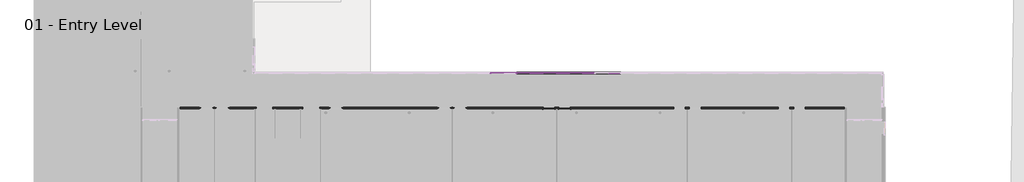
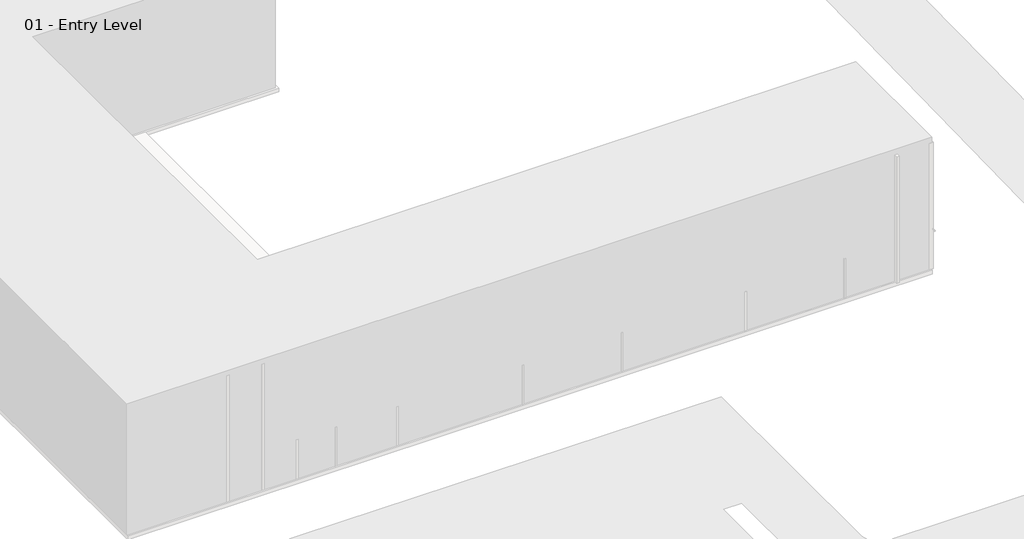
# One storey, part 19 of 34: 72 members, 36 plates, 2 doors, 1 wall.
"""IFC4 building model written with IfcOpenShell, lengths in millimetres."""

from ifc_helpers import new_model, si_unit, origin, place, context, project, spatial, faceted_brep, transform, mapped, element, save
from components import door_a1797ceb, door_a3eb833a, member_2b49869a, member_391b434c, member_9e90ae50, system_panel_glazed_1b9d6098, system_panel_glazed_70da479d

model = new_model("IFC4")

# Units and contexts
model_context = context("Model", 3, world=origin())
ifc_project = project(units=[si_unit("LENGTHUNIT", "METRE", prefix="MILLI")], contexts=[model_context])

# Site, building, storey
site = spatial("IfcSite", under=ifc_project)
building = spatial("IfcBuilding", under=site)
storey = spatial("IfcBuildingStorey", under=building, Name="01 - Entry Level", Elevation=0.0)

# Doors
placement = place(None, origin())
door_shape = door_a1797ceb(model_context)
element("IfcDoor", 1, ObjectType="Single-Flush : 36\" x 84\"", at=placement, inside=storey, context=model_context, shape_type="MappedRepresentation", body=[
    mapped(door_shape, transform((41364.8207476, 8270.8, 0.0), x_axis=(-1.0, 0.0, 0.0), y_axis=(0.0, -1.0, 0.0), z_axis=(0.0, 0.0, 1.0))),
])
door_2_shape = door_a3eb833a(model_context)
element("IfcDoor", 2, ObjectType="Single-Flush : 36\" x 84\"", at=placement, inside=storey, context=model_context, shape_type="MappedRepresentation", body=[
    mapped(door_2_shape, transform((40145.6207476, 8270.8, 0.0), x_axis=(1.0, 0.0, 0.0), y_axis=(0.0, 1.0, 0.0), z_axis=(0.0, 0.0, 1.0))),
])

# Members
member_shape = member_2b49869a(model_context)
element("IfcMember", 3, ObjectType="Rectangular Mullion : 2.5\" x 5\" rectangular", at=placement, inside=storey, context=model_context, shape_type="MappedRepresentation", body=[
    mapped(member_shape, transform((41720.4207476, 11001.3, 9753.6), x_axis=(-1.0, 0.0, 0.0), y_axis=(0.0, 1.0, 0.0), z_axis=(0.0, 0.0, -1.0))),
])
element("IfcMember", 4, ObjectType="Rectangular Mullion : 2.5\" x 5\" rectangular", at=placement, inside=storey, context=model_context, shape_type="MappedRepresentation", body=[
    mapped(member_shape, transform((39688.4207476, 11001.3, 9753.6), x_axis=(-1.0, 0.0, 0.0), y_axis=(0.0, 1.0, 0.0), z_axis=(0.0, 0.0, -1.0))),
])
element("IfcMember", 5, ObjectType="Rectangular Mullion : 2.5\" x 5\" rectangular", at=placement, inside=storey, context=model_context, shape_type="MappedRepresentation", body=[
    mapped(member_shape, transform((37656.4207476, 11001.3, 9753.6), x_axis=(-1.0, 0.0, 0.0), y_axis=(0.0, 1.0, 0.0), z_axis=(0.0, 0.0, -1.0))),
])
element("IfcMember", 6, ObjectType="Rectangular Mullion : 2.5\" x 5\" rectangular", at=placement, inside=storey, context=model_context, shape_type="MappedRepresentation", body=[
    mapped(member_shape, transform((35624.4207476, 11001.3, 9753.6), x_axis=(-1.0, 0.0, 0.0), y_axis=(0.0, 1.0, 0.0), z_axis=(0.0, 0.0, -1.0))),
])
member_2_shape = member_391b434c(model_context)
element("IfcMember", 7, ObjectType="Rectangular Mullion : 2.5\" x 5\" rectangular", at=placement, inside=storey, context=model_context, shape_type="MappedRepresentation", body=[
    mapped(member_2_shape, transform((43784.1707476, 11001.3, 10972.8), x_axis=(0.0, 0.0, 1.0), y_axis=(0.0, 1.0, 0.0), z_axis=(-1.0, 0.0, 0.0))),
])
element("IfcMember", 8, ObjectType="Rectangular Mullion : 2.5\" x 5\" rectangular", at=placement, inside=storey, context=model_context, shape_type="MappedRepresentation", body=[
    mapped(member_2_shape, transform((41752.1707476, 11001.3, 10972.8), x_axis=(0.0, 0.0, 1.0), y_axis=(0.0, 1.0, 0.0), z_axis=(-1.0, 0.0, 0.0))),
])
element("IfcMember", 9, ObjectType="Rectangular Mullion : 2.5\" x 5\" rectangular", at=placement, inside=storey, context=model_context, shape_type="MappedRepresentation", body=[
    mapped(member_2_shape, transform((39720.1707476, 11001.3, 10972.8), x_axis=(0.0, 0.0, 1.0), y_axis=(0.0, 1.0, 0.0), z_axis=(-1.0, 0.0, 0.0))),
])
element("IfcMember", 10, ObjectType="Rectangular Mullion : 2.5\" x 5\" rectangular", at=placement, inside=storey, context=model_context, shape_type="MappedRepresentation", body=[
    mapped(member_2_shape, transform((37688.1707476, 11001.3, 10972.8), x_axis=(0.0, 0.0, 1.0), y_axis=(0.0, 1.0, 0.0), z_axis=(-1.0, 0.0, 0.0))),
])
element("IfcMember", 11, ObjectType="Rectangular Mullion : 2.5\" x 5\" rectangular", at=placement, inside=storey, context=model_context, shape_type="MappedRepresentation", body=[
    mapped(member_2_shape, transform((43720.6707476, 11001.3, 0.0), x_axis=(0.0, 0.0, -1.0), y_axis=(0.0, 1.0, 0.0), z_axis=(1.0, 0.0, 0.0))),
])
element("IfcMember", 12, ObjectType="Rectangular Mullion : 2.5\" x 5\" rectangular", at=placement, inside=storey, context=model_context, shape_type="MappedRepresentation", body=[
    mapped(member_2_shape, transform((41688.6707476, 11001.3, 0.0), x_axis=(0.0, 0.0, -1.0), y_axis=(0.0, 1.0, 0.0), z_axis=(1.0, 0.0, 0.0))),
])
element("IfcMember", 13, ObjectType="Rectangular Mullion : 2.5\" x 5\" rectangular", at=placement, inside=storey, context=model_context, shape_type="MappedRepresentation", body=[
    mapped(member_2_shape, transform((39656.6707476, 11001.3, 0.0), x_axis=(0.0, 0.0, -1.0), y_axis=(0.0, 1.0, 0.0), z_axis=(1.0, 0.0, 0.0))),
])
element("IfcMember", 14, ObjectType="Rectangular Mullion : 2.5\" x 5\" rectangular", at=placement, inside=storey, context=model_context, shape_type="MappedRepresentation", body=[
    mapped(member_2_shape, transform((37624.6707476, 11001.3, 0.0), x_axis=(0.0, 0.0, -1.0), y_axis=(0.0, 1.0, 0.0), z_axis=(1.0, 0.0, 0.0))),
])
member_3_shape = member_9e90ae50(model_context)
element("IfcMember", 15, ObjectType="Rectangular Mullion : 2.5\" x 5\" rectangular", at=placement, inside=storey, context=model_context, shape_type="MappedRepresentation", body=[
    mapped(member_3_shape, transform((43784.1707476, 11001.3, 1219.2), x_axis=(0.0, 0.0, 1.0), y_axis=(0.0, 1.0, 0.0), z_axis=(-1.0, 0.0, 0.0))),
])
element("IfcMember", 16, ObjectType="Rectangular Mullion : 2.5\" x 5\" rectangular", at=placement, inside=storey, context=model_context, shape_type="MappedRepresentation", body=[
    mapped(member_3_shape, transform((41752.1707476, 11001.3, 1219.2), x_axis=(0.0, 0.0, 1.0), y_axis=(0.0, 1.0, 0.0), z_axis=(-1.0, 0.0, 0.0))),
])
element("IfcMember", 17, ObjectType="Rectangular Mullion : 2.5\" x 5\" rectangular", at=placement, inside=storey, context=model_context, shape_type="MappedRepresentation", body=[
    mapped(member_3_shape, transform((39720.1707476, 11001.3, 1219.2), x_axis=(0.0, 0.0, 1.0), y_axis=(0.0, 1.0, 0.0), z_axis=(-1.0, 0.0, 0.0))),
])
element("IfcMember", 18, ObjectType="Rectangular Mullion : 2.5\" x 5\" rectangular", at=placement, inside=storey, context=model_context, shape_type="MappedRepresentation", body=[
    mapped(member_3_shape, transform((37688.1707476, 11001.3, 1219.2), x_axis=(0.0, 0.0, 1.0), y_axis=(0.0, 1.0, 0.0), z_axis=(-1.0, 0.0, 0.0))),
])
element("IfcMember", 19, ObjectType="Rectangular Mullion : 2.5\" x 5\" rectangular", at=placement, inside=storey, context=model_context, shape_type="MappedRepresentation", body=[
    mapped(member_3_shape, transform((43784.1707476, 11001.3, 2438.4), x_axis=(0.0, 0.0, 1.0), y_axis=(0.0, 1.0, 0.0), z_axis=(-1.0, 0.0, 0.0))),
])
element("IfcMember", 20, ObjectType="Rectangular Mullion : 2.5\" x 5\" rectangular", at=placement, inside=storey, context=model_context, shape_type="MappedRepresentation", body=[
    mapped(member_3_shape, transform((41752.1707476, 11001.3, 2438.4), x_axis=(0.0, 0.0, 1.0), y_axis=(0.0, 1.0, 0.0), z_axis=(-1.0, 0.0, 0.0))),
])
element("IfcMember", 21, ObjectType="Rectangular Mullion : 2.5\" x 5\" rectangular", at=placement, inside=storey, context=model_context, shape_type="MappedRepresentation", body=[
    mapped(member_3_shape, transform((39720.1707476, 11001.3, 2438.4), x_axis=(0.0, 0.0, 1.0), y_axis=(0.0, 1.0, 0.0), z_axis=(-1.0, 0.0, 0.0))),
])
element("IfcMember", 22, ObjectType="Rectangular Mullion : 2.5\" x 5\" rectangular", at=placement, inside=storey, context=model_context, shape_type="MappedRepresentation", body=[
    mapped(member_3_shape, transform((37688.1707476, 11001.3, 2438.4), x_axis=(0.0, 0.0, 1.0), y_axis=(0.0, 1.0, 0.0), z_axis=(-1.0, 0.0, 0.0))),
])
element("IfcMember", 23, ObjectType="Rectangular Mullion : 2.5\" x 5\" rectangular", at=placement, inside=storey, context=model_context, shape_type="MappedRepresentation", body=[
    mapped(member_3_shape, transform((43784.1707476, 11001.3, 3657.6), x_axis=(0.0, 0.0, 1.0), y_axis=(0.0, 1.0, 0.0), z_axis=(-1.0, 0.0, 0.0))),
])
element("IfcMember", 24, ObjectType="Rectangular Mullion : 2.5\" x 5\" rectangular", at=placement, inside=storey, context=model_context, shape_type="MappedRepresentation", body=[
    mapped(member_3_shape, transform((41752.1707476, 11001.3, 3657.6), x_axis=(0.0, 0.0, 1.0), y_axis=(0.0, 1.0, 0.0), z_axis=(-1.0, 0.0, 0.0))),
])
element("IfcMember", 25, ObjectType="Rectangular Mullion : 2.5\" x 5\" rectangular", at=placement, inside=storey, context=model_context, shape_type="MappedRepresentation", body=[
    mapped(member_3_shape, transform((39720.1707476, 11001.3, 3657.6), x_axis=(0.0, 0.0, 1.0), y_axis=(0.0, 1.0, 0.0), z_axis=(-1.0, 0.0, 0.0))),
])
element("IfcMember", 26, ObjectType="Rectangular Mullion : 2.5\" x 5\" rectangular", at=placement, inside=storey, context=model_context, shape_type="MappedRepresentation", body=[
    mapped(member_3_shape, transform((37688.1707476, 11001.3, 3657.6), x_axis=(0.0, 0.0, 1.0), y_axis=(0.0, 1.0, 0.0), z_axis=(-1.0, 0.0, 0.0))),
])
element("IfcMember", 27, ObjectType="Rectangular Mullion : 2.5\" x 5\" rectangular", at=placement, inside=storey, context=model_context, shape_type="MappedRepresentation", body=[
    mapped(member_3_shape, transform((43784.1707476, 11001.3, 4876.8), x_axis=(0.0, 0.0, 1.0), y_axis=(0.0, 1.0, 0.0), z_axis=(-1.0, 0.0, 0.0))),
])
element("IfcMember", 28, ObjectType="Rectangular Mullion : 2.5\" x 5\" rectangular", at=placement, inside=storey, context=model_context, shape_type="MappedRepresentation", body=[
    mapped(member_3_shape, transform((41752.1707476, 11001.3, 4876.8), x_axis=(0.0, 0.0, 1.0), y_axis=(0.0, 1.0, 0.0), z_axis=(-1.0, 0.0, 0.0))),
])
element("IfcMember", 29, ObjectType="Rectangular Mullion : 2.5\" x 5\" rectangular", at=placement, inside=storey, context=model_context, shape_type="MappedRepresentation", body=[
    mapped(member_3_shape, transform((39720.1707476, 11001.3, 4876.8), x_axis=(0.0, 0.0, 1.0), y_axis=(0.0, 1.0, 0.0), z_axis=(-1.0, 0.0, 0.0))),
])
element("IfcMember", 30, ObjectType="Rectangular Mullion : 2.5\" x 5\" rectangular", at=placement, inside=storey, context=model_context, shape_type="MappedRepresentation", body=[
    mapped(member_3_shape, transform((37688.1707476, 11001.3, 4876.8), x_axis=(0.0, 0.0, 1.0), y_axis=(0.0, 1.0, 0.0), z_axis=(-1.0, 0.0, 0.0))),
])
element("IfcMember", 31, ObjectType="Rectangular Mullion : 2.5\" x 5\" rectangular", at=placement, inside=storey, context=model_context, shape_type="MappedRepresentation", body=[
    mapped(member_3_shape, transform((43784.1707476, 11001.3, 6096.0), x_axis=(0.0, 0.0, 1.0), y_axis=(0.0, 1.0, 0.0), z_axis=(-1.0, 0.0, 0.0))),
])
element("IfcMember", 32, ObjectType="Rectangular Mullion : 2.5\" x 5\" rectangular", at=placement, inside=storey, context=model_context, shape_type="MappedRepresentation", body=[
    mapped(member_3_shape, transform((41752.1707476, 11001.3, 6096.0), x_axis=(0.0, 0.0, 1.0), y_axis=(0.0, 1.0, 0.0), z_axis=(-1.0, 0.0, 0.0))),
])
element("IfcMember", 33, ObjectType="Rectangular Mullion : 2.5\" x 5\" rectangular", at=placement, inside=storey, context=model_context, shape_type="MappedRepresentation", body=[
    mapped(member_3_shape, transform((39720.1707476, 11001.3, 6096.0), x_axis=(0.0, 0.0, 1.0), y_axis=(0.0, 1.0, 0.0), z_axis=(-1.0, 0.0, 0.0))),
])
element("IfcMember", 34, ObjectType="Rectangular Mullion : 2.5\" x 5\" rectangular", at=placement, inside=storey, context=model_context, shape_type="MappedRepresentation", body=[
    mapped(member_3_shape, transform((37688.1707476, 11001.3, 6096.0), x_axis=(0.0, 0.0, 1.0), y_axis=(0.0, 1.0, 0.0), z_axis=(-1.0, 0.0, 0.0))),
])
element("IfcMember", 35, ObjectType="Rectangular Mullion : 2.5\" x 5\" rectangular", at=placement, inside=storey, context=model_context, shape_type="MappedRepresentation", body=[
    mapped(member_3_shape, transform((43784.1707476, 11001.3, 7315.2), x_axis=(0.0, 0.0, 1.0), y_axis=(0.0, 1.0, 0.0), z_axis=(-1.0, 0.0, 0.0))),
])
element("IfcMember", 36, ObjectType="Rectangular Mullion : 2.5\" x 5\" rectangular", at=placement, inside=storey, context=model_context, shape_type="MappedRepresentation", body=[
    mapped(member_3_shape, transform((41752.1707476, 11001.3, 7315.2), x_axis=(0.0, 0.0, 1.0), y_axis=(0.0, 1.0, 0.0), z_axis=(-1.0, 0.0, 0.0))),
])
element("IfcMember", 37, ObjectType="Rectangular Mullion : 2.5\" x 5\" rectangular", at=placement, inside=storey, context=model_context, shape_type="MappedRepresentation", body=[
    mapped(member_3_shape, transform((39720.1707476, 11001.3, 7315.2), x_axis=(0.0, 0.0, 1.0), y_axis=(0.0, 1.0, 0.0), z_axis=(-1.0, 0.0, 0.0))),
])
element("IfcMember", 38, ObjectType="Rectangular Mullion : 2.5\" x 5\" rectangular", at=placement, inside=storey, context=model_context, shape_type="MappedRepresentation", body=[
    mapped(member_3_shape, transform((37688.1707476, 11001.3, 7315.2), x_axis=(0.0, 0.0, 1.0), y_axis=(0.0, 1.0, 0.0), z_axis=(-1.0, 0.0, 0.0))),
])
element("IfcMember", 39, ObjectType="Rectangular Mullion : 2.5\" x 5\" rectangular", at=placement, inside=storey, context=model_context, shape_type="MappedRepresentation", body=[
    mapped(member_3_shape, transform((43784.1707476, 11001.3, 8534.4), x_axis=(0.0, 0.0, 1.0), y_axis=(0.0, 1.0, 0.0), z_axis=(-1.0, 0.0, 0.0))),
])
element("IfcMember", 40, ObjectType="Rectangular Mullion : 2.5\" x 5\" rectangular", at=placement, inside=storey, context=model_context, shape_type="MappedRepresentation", body=[
    mapped(member_3_shape, transform((41752.1707476, 11001.3, 8534.4), x_axis=(0.0, 0.0, 1.0), y_axis=(0.0, 1.0, 0.0), z_axis=(-1.0, 0.0, 0.0))),
])
element("IfcMember", 41, ObjectType="Rectangular Mullion : 2.5\" x 5\" rectangular", at=placement, inside=storey, context=model_context, shape_type="MappedRepresentation", body=[
    mapped(member_3_shape, transform((39720.1707476, 11001.3, 8534.4), x_axis=(0.0, 0.0, 1.0), y_axis=(0.0, 1.0, 0.0), z_axis=(-1.0, 0.0, 0.0))),
])
element("IfcMember", 42, ObjectType="Rectangular Mullion : 2.5\" x 5\" rectangular", at=placement, inside=storey, context=model_context, shape_type="MappedRepresentation", body=[
    mapped(member_3_shape, transform((37688.1707476, 11001.3, 8534.4), x_axis=(0.0, 0.0, 1.0), y_axis=(0.0, 1.0, 0.0), z_axis=(-1.0, 0.0, 0.0))),
])
element("IfcMember", 43, ObjectType="Rectangular Mullion : 2.5\" x 5\" rectangular", at=placement, inside=storey, context=model_context, shape_type="MappedRepresentation", body=[
    mapped(member_3_shape, transform((43784.1707476, 11001.3, 9753.6), x_axis=(0.0, 0.0, 1.0), y_axis=(0.0, 1.0, 0.0), z_axis=(-1.0, 0.0, 0.0))),
])
element("IfcMember", 44, ObjectType="Rectangular Mullion : 2.5\" x 5\" rectangular", at=placement, inside=storey, context=model_context, shape_type="MappedRepresentation", body=[
    mapped(member_3_shape, transform((41752.1707476, 11001.3, 9753.6), x_axis=(0.0, 0.0, 1.0), y_axis=(0.0, 1.0, 0.0), z_axis=(-1.0, 0.0, 0.0))),
])
element("IfcMember", 45, ObjectType="Rectangular Mullion : 2.5\" x 5\" rectangular", at=placement, inside=storey, context=model_context, shape_type="MappedRepresentation", body=[
    mapped(member_3_shape, transform((39720.1707476, 11001.3, 9753.6), x_axis=(0.0, 0.0, 1.0), y_axis=(0.0, 1.0, 0.0), z_axis=(-1.0, 0.0, 0.0))),
])
element("IfcMember", 46, ObjectType="Rectangular Mullion : 2.5\" x 5\" rectangular", at=placement, inside=storey, context=model_context, shape_type="MappedRepresentation", body=[
    mapped(member_3_shape, transform((37688.1707476, 11001.3, 9753.6), x_axis=(0.0, 0.0, 1.0), y_axis=(0.0, 1.0, 0.0), z_axis=(-1.0, 0.0, 0.0))),
])
element("IfcMember", 47, ObjectType="Rectangular Mullion : 2.5\" x 5\" rectangular", at=placement, inside=storey, context=model_context, shape_type="MappedRepresentation", body=[
    mapped(member_shape, transform((43752.4207476, 11001.3, 0.0), x_axis=(-1.0, 0.0, 0.0), y_axis=(0.0, 1.0, 0.0), z_axis=(0.0, 0.0, -1.0))),
])
element("IfcMember", 48, ObjectType="Rectangular Mullion : 2.5\" x 5\" rectangular", at=placement, inside=storey, context=model_context, shape_type="MappedRepresentation", body=[
    mapped(member_shape, transform((41720.4207476, 11001.3, 0.0), x_axis=(-1.0, 0.0, 0.0), y_axis=(0.0, 1.0, 0.0), z_axis=(0.0, 0.0, -1.0))),
])
element("IfcMember", 49, ObjectType="Rectangular Mullion : 2.5\" x 5\" rectangular", at=placement, inside=storey, context=model_context, shape_type="MappedRepresentation", body=[
    mapped(member_shape, transform((39688.4207476, 11001.3, 0.0), x_axis=(-1.0, 0.0, 0.0), y_axis=(0.0, 1.0, 0.0), z_axis=(0.0, 0.0, -1.0))),
])
element("IfcMember", 50, ObjectType="Rectangular Mullion : 2.5\" x 5\" rectangular", at=placement, inside=storey, context=model_context, shape_type="MappedRepresentation", body=[
    mapped(member_shape, transform((37656.4207476, 11001.3, 0.0), x_axis=(-1.0, 0.0, 0.0), y_axis=(0.0, 1.0, 0.0), z_axis=(0.0, 0.0, -1.0))),
])
element("IfcMember", 51, ObjectType="Rectangular Mullion : 2.5\" x 5\" rectangular", at=placement, inside=storey, context=model_context, shape_type="MappedRepresentation", body=[
    mapped(member_shape, transform((43752.4207476, 11001.3, 1219.2), x_axis=(-1.0, 0.0, 0.0), y_axis=(0.0, 1.0, 0.0), z_axis=(0.0, 0.0, -1.0))),
])
element("IfcMember", 52, ObjectType="Rectangular Mullion : 2.5\" x 5\" rectangular", at=placement, inside=storey, context=model_context, shape_type="MappedRepresentation", body=[
    mapped(member_shape, transform((41720.4207476, 11001.3, 1219.2), x_axis=(-1.0, 0.0, 0.0), y_axis=(0.0, 1.0, 0.0), z_axis=(0.0, 0.0, -1.0))),
])
element("IfcMember", 53, ObjectType="Rectangular Mullion : 2.5\" x 5\" rectangular", at=placement, inside=storey, context=model_context, shape_type="MappedRepresentation", body=[
    mapped(member_shape, transform((39688.4207476, 11001.3, 1219.2), x_axis=(-1.0, 0.0, 0.0), y_axis=(0.0, 1.0, 0.0), z_axis=(0.0, 0.0, -1.0))),
])
element("IfcMember", 54, ObjectType="Rectangular Mullion : 2.5\" x 5\" rectangular", at=placement, inside=storey, context=model_context, shape_type="MappedRepresentation", body=[
    mapped(member_shape, transform((37656.4207476, 11001.3, 1219.2), x_axis=(-1.0, 0.0, 0.0), y_axis=(0.0, 1.0, 0.0), z_axis=(0.0, 0.0, -1.0))),
])
element("IfcMember", 55, ObjectType="Rectangular Mullion : 2.5\" x 5\" rectangular", at=placement, inside=storey, context=model_context, shape_type="MappedRepresentation", body=[
    mapped(member_shape, transform((43752.4207476, 11001.3, 2438.4), x_axis=(-1.0, 0.0, 0.0), y_axis=(0.0, 1.0, 0.0), z_axis=(0.0, 0.0, -1.0))),
])
element("IfcMember", 56, ObjectType="Rectangular Mullion : 2.5\" x 5\" rectangular", at=placement, inside=storey, context=model_context, shape_type="MappedRepresentation", body=[
    mapped(member_shape, transform((41720.4207476, 11001.3, 2438.4), x_axis=(-1.0, 0.0, 0.0), y_axis=(0.0, 1.0, 0.0), z_axis=(0.0, 0.0, -1.0))),
])
element("IfcMember", 57, ObjectType="Rectangular Mullion : 2.5\" x 5\" rectangular", at=placement, inside=storey, context=model_context, shape_type="MappedRepresentation", body=[
    mapped(member_shape, transform((39688.4207476, 11001.3, 2438.4), x_axis=(-1.0, 0.0, 0.0), y_axis=(0.0, 1.0, 0.0), z_axis=(0.0, 0.0, -1.0))),
])
element("IfcMember", 58, ObjectType="Rectangular Mullion : 2.5\" x 5\" rectangular", at=placement, inside=storey, context=model_context, shape_type="MappedRepresentation", body=[
    mapped(member_shape, transform((37656.4207476, 11001.3, 2438.4), x_axis=(-1.0, 0.0, 0.0), y_axis=(0.0, 1.0, 0.0), z_axis=(0.0, 0.0, -1.0))),
])
element("IfcMember", 59, ObjectType="Rectangular Mullion : 2.5\" x 5\" rectangular", at=placement, inside=storey, context=model_context, shape_type="MappedRepresentation", body=[
    mapped(member_shape, transform((43752.4207476, 11001.3, 3657.6), x_axis=(-1.0, 0.0, 0.0), y_axis=(0.0, 1.0, 0.0), z_axis=(0.0, 0.0, -1.0))),
])
element("IfcMember", 60, ObjectType="Rectangular Mullion : 2.5\" x 5\" rectangular", at=placement, inside=storey, context=model_context, shape_type="MappedRepresentation", body=[
    mapped(member_shape, transform((41720.4207476, 11001.3, 3657.6), x_axis=(-1.0, 0.0, 0.0), y_axis=(0.0, 1.0, 0.0), z_axis=(0.0, 0.0, -1.0))),
])
element("IfcMember", 61, ObjectType="Rectangular Mullion : 2.5\" x 5\" rectangular", at=placement, inside=storey, context=model_context, shape_type="MappedRepresentation", body=[
    mapped(member_shape, transform((39688.4207476, 11001.3, 3657.6), x_axis=(-1.0, 0.0, 0.0), y_axis=(0.0, 1.0, 0.0), z_axis=(0.0, 0.0, -1.0))),
])
element("IfcMember", 62, ObjectType="Rectangular Mullion : 2.5\" x 5\" rectangular", at=placement, inside=storey, context=model_context, shape_type="MappedRepresentation", body=[
    mapped(member_shape, transform((37656.4207476, 11001.3, 3657.6), x_axis=(-1.0, 0.0, 0.0), y_axis=(0.0, 1.0, 0.0), z_axis=(0.0, 0.0, -1.0))),
])
element("IfcMember", 63, ObjectType="Rectangular Mullion : 2.5\" x 5\" rectangular", at=placement, inside=storey, context=model_context, shape_type="MappedRepresentation", body=[
    mapped(member_shape, transform((41720.4207476, 11001.3, 4876.8), x_axis=(-1.0, 0.0, 0.0), y_axis=(0.0, 1.0, 0.0), z_axis=(0.0, 0.0, -1.0))),
])
element("IfcMember", 64, ObjectType="Rectangular Mullion : 2.5\" x 5\" rectangular", at=placement, inside=storey, context=model_context, shape_type="MappedRepresentation", body=[
    mapped(member_shape, transform((39688.4207476, 11001.3, 4876.8), x_axis=(-1.0, 0.0, 0.0), y_axis=(0.0, 1.0, 0.0), z_axis=(0.0, 0.0, -1.0))),
])
element("IfcMember", 65, ObjectType="Rectangular Mullion : 2.5\" x 5\" rectangular", at=placement, inside=storey, context=model_context, shape_type="MappedRepresentation", body=[
    mapped(member_shape, transform((37656.4207476, 11001.3, 4876.8), x_axis=(-1.0, 0.0, 0.0), y_axis=(0.0, 1.0, 0.0), z_axis=(0.0, 0.0, -1.0))),
])
element("IfcMember", 66, ObjectType="Rectangular Mullion : 2.5\" x 5\" rectangular", at=placement, inside=storey, context=model_context, shape_type="MappedRepresentation", body=[
    mapped(member_shape, transform((41720.4207476, 11001.3, 6096.0), x_axis=(-1.0, 0.0, 0.0), y_axis=(0.0, 1.0, 0.0), z_axis=(0.0, 0.0, -1.0))),
])
element("IfcMember", 67, ObjectType="Rectangular Mullion : 2.5\" x 5\" rectangular", at=placement, inside=storey, context=model_context, shape_type="MappedRepresentation", body=[
    mapped(member_shape, transform((39688.4207476, 11001.3, 6096.0), x_axis=(-1.0, 0.0, 0.0), y_axis=(0.0, 1.0, 0.0), z_axis=(0.0, 0.0, -1.0))),
])
element("IfcMember", 68, ObjectType="Rectangular Mullion : 2.5\" x 5\" rectangular", at=placement, inside=storey, context=model_context, shape_type="MappedRepresentation", body=[
    mapped(member_shape, transform((37656.4207476, 11001.3, 6096.0), x_axis=(-1.0, 0.0, 0.0), y_axis=(0.0, 1.0, 0.0), z_axis=(0.0, 0.0, -1.0))),
])
element("IfcMember", 69, ObjectType="Rectangular Mullion : 2.5\" x 5\" rectangular", at=placement, inside=storey, context=model_context, shape_type="MappedRepresentation", body=[
    mapped(member_shape, transform((41720.4207476, 11001.3, 7315.2), x_axis=(-1.0, 0.0, 0.0), y_axis=(0.0, 1.0, 0.0), z_axis=(0.0, 0.0, -1.0))),
])
element("IfcMember", 70, ObjectType="Rectangular Mullion : 2.5\" x 5\" rectangular", at=placement, inside=storey, context=model_context, shape_type="MappedRepresentation", body=[
    mapped(member_shape, transform((39688.4207476, 11001.3, 7315.2), x_axis=(-1.0, 0.0, 0.0), y_axis=(0.0, 1.0, 0.0), z_axis=(0.0, 0.0, -1.0))),
])
element("IfcMember", 71, ObjectType="Rectangular Mullion : 2.5\" x 5\" rectangular", at=placement, inside=storey, context=model_context, shape_type="MappedRepresentation", body=[
    mapped(member_shape, transform((37656.4207476, 11001.3, 7315.2), x_axis=(-1.0, 0.0, 0.0), y_axis=(0.0, 1.0, 0.0), z_axis=(0.0, 0.0, -1.0))),
])
element("IfcMember", 72, ObjectType="Rectangular Mullion : 2.5\" x 5\" rectangular", at=placement, inside=storey, context=model_context, shape_type="MappedRepresentation", body=[
    mapped(member_shape, transform((41720.4207476, 11001.3, 8534.4), x_axis=(-1.0, 0.0, 0.0), y_axis=(0.0, 1.0, 0.0), z_axis=(0.0, 0.0, -1.0))),
])
element("IfcMember", 73, ObjectType="Rectangular Mullion : 2.5\" x 5\" rectangular", at=placement, inside=storey, context=model_context, shape_type="MappedRepresentation", body=[
    mapped(member_shape, transform((39688.4207476, 11001.3, 8534.4), x_axis=(-1.0, 0.0, 0.0), y_axis=(0.0, 1.0, 0.0), z_axis=(0.0, 0.0, -1.0))),
])
element("IfcMember", 74, ObjectType="Rectangular Mullion : 2.5\" x 5\" rectangular", at=placement, inside=storey, context=model_context, shape_type="MappedRepresentation", body=[
    mapped(member_shape, transform((37656.4207476, 11001.3, 8534.4), x_axis=(-1.0, 0.0, 0.0), y_axis=(0.0, 1.0, 0.0), z_axis=(0.0, 0.0, -1.0))),
])

# Plates
system_panel_glazed_shape = system_panel_glazed_1b9d6098(model_context)
element("IfcPlate", 75, ObjectType="System Panel : Glazed", at=placement, inside=storey, context=model_context, shape_type="MappedRepresentation", body=[
    mapped(system_panel_glazed_shape, transform((42736.4207476, 11001.3, 63.5), x_axis=(-1.0, 0.0, 0.0), y_axis=(0.0, -1.0, 0.0), z_axis=(0.0, 0.0, 1.0))),
])
element("IfcPlate", 76, ObjectType="System Panel : Glazed", at=placement, inside=storey, context=model_context, shape_type="MappedRepresentation", body=[
    mapped(system_panel_glazed_shape, transform((40704.4207476, 11001.3, 63.5), x_axis=(-1.0, 0.0, 0.0), y_axis=(0.0, -1.0, 0.0), z_axis=(0.0, 0.0, 1.0))),
])
element("IfcPlate", 77, ObjectType="System Panel : Glazed", at=placement, inside=storey, context=model_context, shape_type="MappedRepresentation", body=[
    mapped(system_panel_glazed_shape, transform((38672.4207476, 11001.3, 63.5), x_axis=(-1.0, 0.0, 0.0), y_axis=(0.0, -1.0, 0.0), z_axis=(0.0, 0.0, 1.0))),
])
element("IfcPlate", 78, ObjectType="System Panel : Glazed", at=placement, inside=storey, context=model_context, shape_type="MappedRepresentation", body=[
    mapped(system_panel_glazed_shape, transform((36640.4207476, 11001.3, 63.5), x_axis=(-1.0, 0.0, 0.0), y_axis=(0.0, -1.0, 0.0), z_axis=(0.0, 0.0, 1.0))),
])
element("IfcPlate", 79, ObjectType="System Panel : Glazed", at=placement, inside=storey, context=model_context, shape_type="MappedRepresentation", body=[
    mapped(system_panel_glazed_shape, transform((42736.4207476, 11001.3, 9785.35), x_axis=(-1.0, 0.0, 0.0), y_axis=(0.0, -1.0, 0.0), z_axis=(0.0, 0.0, 1.0))),
])
element("IfcPlate", 80, ObjectType="System Panel : Glazed", at=placement, inside=storey, context=model_context, shape_type="MappedRepresentation", body=[
    mapped(system_panel_glazed_shape, transform((40704.4207476, 11001.3, 9785.35), x_axis=(-1.0, 0.0, 0.0), y_axis=(0.0, -1.0, 0.0), z_axis=(0.0, 0.0, 1.0))),
])
element("IfcPlate", 81, ObjectType="System Panel : Glazed", at=placement, inside=storey, context=model_context, shape_type="MappedRepresentation", body=[
    mapped(system_panel_glazed_shape, transform((38672.4207476, 11001.3, 9785.35), x_axis=(-1.0, 0.0, 0.0), y_axis=(0.0, -1.0, 0.0), z_axis=(0.0, 0.0, 1.0))),
])
element("IfcPlate", 82, ObjectType="System Panel : Glazed", at=placement, inside=storey, context=model_context, shape_type="MappedRepresentation", body=[
    mapped(system_panel_glazed_shape, transform((36640.4207476, 11001.3, 9785.35), x_axis=(-1.0, 0.0, 0.0), y_axis=(0.0, -1.0, 0.0), z_axis=(0.0, 0.0, 1.0))),
])
system_panel_glazed_2_shape = system_panel_glazed_70da479d(model_context)
element("IfcPlate", 83, ObjectType="System Panel : Glazed", at=placement, inside=storey, context=model_context, shape_type="MappedRepresentation", body=[
    mapped(system_panel_glazed_2_shape, transform((42736.4207476, 11001.3, 1250.95), x_axis=(-1.0, 0.0, 0.0), y_axis=(0.0, -1.0, 0.0), z_axis=(0.0, 0.0, 1.0))),
])
element("IfcPlate", 84, ObjectType="System Panel : Glazed", at=placement, inside=storey, context=model_context, shape_type="MappedRepresentation", body=[
    mapped(system_panel_glazed_2_shape, transform((40704.4207476, 11001.3, 1250.95), x_axis=(-1.0, 0.0, 0.0), y_axis=(0.0, -1.0, 0.0), z_axis=(0.0, 0.0, 1.0))),
])
element("IfcPlate", 85, ObjectType="System Panel : Glazed", at=placement, inside=storey, context=model_context, shape_type="MappedRepresentation", body=[
    mapped(system_panel_glazed_2_shape, transform((38672.4207476, 11001.3, 1250.95), x_axis=(-1.0, 0.0, 0.0), y_axis=(0.0, -1.0, 0.0), z_axis=(0.0, 0.0, 1.0))),
])
element("IfcPlate", 86, ObjectType="System Panel : Glazed", at=placement, inside=storey, context=model_context, shape_type="MappedRepresentation", body=[
    mapped(system_panel_glazed_2_shape, transform((36640.4207476, 11001.3, 1250.95), x_axis=(-1.0, 0.0, 0.0), y_axis=(0.0, -1.0, 0.0), z_axis=(0.0, 0.0, 1.0))),
])
element("IfcPlate", 87, ObjectType="System Panel : Glazed", at=placement, inside=storey, context=model_context, shape_type="MappedRepresentation", body=[
    mapped(system_panel_glazed_2_shape, transform((42736.4207476, 11001.3, 2470.15), x_axis=(-1.0, 0.0, 0.0), y_axis=(0.0, -1.0, 0.0), z_axis=(0.0, 0.0, 1.0))),
])
element("IfcPlate", 88, ObjectType="System Panel : Glazed", at=placement, inside=storey, context=model_context, shape_type="MappedRepresentation", body=[
    mapped(system_panel_glazed_2_shape, transform((40704.4207476, 11001.3, 2470.15), x_axis=(-1.0, 0.0, 0.0), y_axis=(0.0, -1.0, 0.0), z_axis=(0.0, 0.0, 1.0))),
])
element("IfcPlate", 89, ObjectType="System Panel : Glazed", at=placement, inside=storey, context=model_context, shape_type="MappedRepresentation", body=[
    mapped(system_panel_glazed_2_shape, transform((38672.4207476, 11001.3, 2470.15), x_axis=(-1.0, 0.0, 0.0), y_axis=(0.0, -1.0, 0.0), z_axis=(0.0, 0.0, 1.0))),
])
element("IfcPlate", 90, ObjectType="System Panel : Glazed", at=placement, inside=storey, context=model_context, shape_type="MappedRepresentation", body=[
    mapped(system_panel_glazed_2_shape, transform((36640.4207476, 11001.3, 2470.15), x_axis=(-1.0, 0.0, 0.0), y_axis=(0.0, -1.0, 0.0), z_axis=(0.0, 0.0, 1.0))),
])
element("IfcPlate", 91, ObjectType="System Panel : Glazed", at=placement, inside=storey, context=model_context, shape_type="MappedRepresentation", body=[
    mapped(system_panel_glazed_2_shape, transform((42736.4207476, 11001.3, 3689.35), x_axis=(-1.0, 0.0, 0.0), y_axis=(0.0, -1.0, 0.0), z_axis=(0.0, 0.0, 1.0))),
])
element("IfcPlate", 92, ObjectType="System Panel : Glazed", at=placement, inside=storey, context=model_context, shape_type="MappedRepresentation", body=[
    mapped(system_panel_glazed_2_shape, transform((40704.4207476, 11001.3, 3689.35), x_axis=(-1.0, 0.0, 0.0), y_axis=(0.0, -1.0, 0.0), z_axis=(0.0, 0.0, 1.0))),
])
element("IfcPlate", 93, ObjectType="System Panel : Glazed", at=placement, inside=storey, context=model_context, shape_type="MappedRepresentation", body=[
    mapped(system_panel_glazed_2_shape, transform((38672.4207476, 11001.3, 3689.35), x_axis=(-1.0, 0.0, 0.0), y_axis=(0.0, -1.0, 0.0), z_axis=(0.0, 0.0, 1.0))),
])
element("IfcPlate", 94, ObjectType="System Panel : Glazed", at=placement, inside=storey, context=model_context, shape_type="MappedRepresentation", body=[
    mapped(system_panel_glazed_2_shape, transform((36640.4207476, 11001.3, 3689.35), x_axis=(-1.0, 0.0, 0.0), y_axis=(0.0, -1.0, 0.0), z_axis=(0.0, 0.0, 1.0))),
])
element("IfcPlate", 95, ObjectType="System Panel : Glazed", at=placement, inside=storey, context=model_context, shape_type="MappedRepresentation", body=[
    mapped(system_panel_glazed_2_shape, transform((42736.4207476, 11001.3, 4908.55), x_axis=(-1.0, 0.0, 0.0), y_axis=(0.0, -1.0, 0.0), z_axis=(0.0, 0.0, 1.0))),
])
element("IfcPlate", 96, ObjectType="System Panel : Glazed", at=placement, inside=storey, context=model_context, shape_type="MappedRepresentation", body=[
    mapped(system_panel_glazed_2_shape, transform((40704.4207476, 11001.3, 4908.55), x_axis=(-1.0, 0.0, 0.0), y_axis=(0.0, -1.0, 0.0), z_axis=(0.0, 0.0, 1.0))),
])
element("IfcPlate", 97, ObjectType="System Panel : Glazed", at=placement, inside=storey, context=model_context, shape_type="MappedRepresentation", body=[
    mapped(system_panel_glazed_2_shape, transform((38672.4207476, 11001.3, 4908.55), x_axis=(-1.0, 0.0, 0.0), y_axis=(0.0, -1.0, 0.0), z_axis=(0.0, 0.0, 1.0))),
])
element("IfcPlate", 98, ObjectType="System Panel : Glazed", at=placement, inside=storey, context=model_context, shape_type="MappedRepresentation", body=[
    mapped(system_panel_glazed_2_shape, transform((36640.4207476, 11001.3, 4908.55), x_axis=(-1.0, 0.0, 0.0), y_axis=(0.0, -1.0, 0.0), z_axis=(0.0, 0.0, 1.0))),
])
element("IfcPlate", 99, ObjectType="System Panel : Glazed", at=placement, inside=storey, context=model_context, shape_type="MappedRepresentation", body=[
    mapped(system_panel_glazed_2_shape, transform((42736.4207476, 11001.3, 6127.75), x_axis=(-1.0, 0.0, 0.0), y_axis=(0.0, -1.0, 0.0), z_axis=(0.0, 0.0, 1.0))),
])
element("IfcPlate", 100, ObjectType="System Panel : Glazed", at=placement, inside=storey, context=model_context, shape_type="MappedRepresentation", body=[
    mapped(system_panel_glazed_2_shape, transform((40704.4207476, 11001.3, 6127.75), x_axis=(-1.0, 0.0, 0.0), y_axis=(0.0, -1.0, 0.0), z_axis=(0.0, 0.0, 1.0))),
])
element("IfcPlate", 101, ObjectType="System Panel : Glazed", at=placement, inside=storey, context=model_context, shape_type="MappedRepresentation", body=[
    mapped(system_panel_glazed_2_shape, transform((38672.4207476, 11001.3, 6127.75), x_axis=(-1.0, 0.0, 0.0), y_axis=(0.0, -1.0, 0.0), z_axis=(0.0, 0.0, 1.0))),
])
element("IfcPlate", 102, ObjectType="System Panel : Glazed", at=placement, inside=storey, context=model_context, shape_type="MappedRepresentation", body=[
    mapped(system_panel_glazed_2_shape, transform((36640.4207476, 11001.3, 6127.75), x_axis=(-1.0, 0.0, 0.0), y_axis=(0.0, -1.0, 0.0), z_axis=(0.0, 0.0, 1.0))),
])
element("IfcPlate", 103, ObjectType="System Panel : Glazed", at=placement, inside=storey, context=model_context, shape_type="MappedRepresentation", body=[
    mapped(system_panel_glazed_2_shape, transform((42736.4207476, 11001.3, 7346.95), x_axis=(-1.0, 0.0, 0.0), y_axis=(0.0, -1.0, 0.0), z_axis=(0.0, 0.0, 1.0))),
])
element("IfcPlate", 104, ObjectType="System Panel : Glazed", at=placement, inside=storey, context=model_context, shape_type="MappedRepresentation", body=[
    mapped(system_panel_glazed_2_shape, transform((40704.4207476, 11001.3, 7346.95), x_axis=(-1.0, 0.0, 0.0), y_axis=(0.0, -1.0, 0.0), z_axis=(0.0, 0.0, 1.0))),
])
element("IfcPlate", 105, ObjectType="System Panel : Glazed", at=placement, inside=storey, context=model_context, shape_type="MappedRepresentation", body=[
    mapped(system_panel_glazed_2_shape, transform((38672.4207476, 11001.3, 7346.95), x_axis=(-1.0, 0.0, 0.0), y_axis=(0.0, -1.0, 0.0), z_axis=(0.0, 0.0, 1.0))),
])
element("IfcPlate", 106, ObjectType="System Panel : Glazed", at=placement, inside=storey, context=model_context, shape_type="MappedRepresentation", body=[
    mapped(system_panel_glazed_2_shape, transform((36640.4207476, 11001.3, 7346.95), x_axis=(-1.0, 0.0, 0.0), y_axis=(0.0, -1.0, 0.0), z_axis=(0.0, 0.0, 1.0))),
])
element("IfcPlate", 107, ObjectType="System Panel : Glazed", at=placement, inside=storey, context=model_context, shape_type="MappedRepresentation", body=[
    mapped(system_panel_glazed_2_shape, transform((42736.4207476, 11001.3, 8566.15), x_axis=(-1.0, 0.0, 0.0), y_axis=(0.0, -1.0, 0.0), z_axis=(0.0, 0.0, 1.0))),
])
element("IfcPlate", 108, ObjectType="System Panel : Glazed", at=placement, inside=storey, context=model_context, shape_type="MappedRepresentation", body=[
    mapped(system_panel_glazed_2_shape, transform((40704.4207476, 11001.3, 8566.15), x_axis=(-1.0, 0.0, 0.0), y_axis=(0.0, -1.0, 0.0), z_axis=(0.0, 0.0, 1.0))),
])
element("IfcPlate", 109, ObjectType="System Panel : Glazed", at=placement, inside=storey, context=model_context, shape_type="MappedRepresentation", body=[
    mapped(system_panel_glazed_2_shape, transform((38672.4207476, 11001.3, 8566.15), x_axis=(-1.0, 0.0, 0.0), y_axis=(0.0, -1.0, 0.0), z_axis=(0.0, 0.0, 1.0))),
])
element("IfcPlate", 110, ObjectType="System Panel : Glazed", at=placement, inside=storey, context=model_context, shape_type="MappedRepresentation", body=[
    mapped(system_panel_glazed_2_shape, transform((36640.4207476, 11001.3, 8566.15), x_axis=(-1.0, 0.0, 0.0), y_axis=(0.0, -1.0, 0.0), z_axis=(0.0, 0.0, 1.0))),
])

# Wall
element("IfcWall", 111, ObjectType="Generic - 5\"", at=placement, inside=storey, context=model_context, shape_type="Brep", body=[
    faceted_brep([(58890.8207476, 8207.3, 0.0), (58979.7207476, 8207.3, 0.0), (59106.7207476, 8207.3, 0.0), (59195.6207476, 8207.3, 0.0), (59195.6207476, 8207.3, 2133.6), (60110.0207476, 8207.3, 2133.6), (60110.0207476, 8207.3, 0.0), (63145.3207476, 8207.3, 0.0), (63145.3207476, 8207.3, 3403.6), (59106.7207476, 8207.3, 3403.6), (58979.7207476, 8207.3, 3403.6), (50978.7207476, 8207.3, 3403.6), (50851.7207476, 8207.3, 3403.6), (40818.7207476, 8207.3, 3403.6), (40691.7207476, 8207.3, 3403.6), (32690.7207476, 8207.3, 3403.6), (32563.7207476, 8207.3, 3403.6), (22429.1207476, 8207.3, 3403.6), (22302.1207476, 8207.3, 3403.6), (20892.4207476, 8207.3, 3403.6), (20765.4207476, 8207.3, 3403.6), (18885.8207476, 8207.3, 3403.6), (18758.8207476, 8207.3, 3403.6), (17361.8207476, 8207.3, 3403.6), (17234.8207476, 8207.3, 3403.6), (14186.8207476, 8207.3, 3403.6), (14059.8207476, 8207.3, 3403.6), (11405.5207476, 8207.3, 3403.6), (11405.5207476, 8207.3, 0.0), (13056.5207476, 8207.3, 0.0), (13056.5207476, 8207.3, 2133.6), (13970.9207476, 8207.3, 2133.6), (13970.9207476, 8207.3, 0.0), (14059.8207476, 8207.3, 0.0), (14186.8207476, 8207.3, 0.0), (14275.7207476, 8207.3, 0.0), (14275.7207476, 8207.3, 2133.6), (15190.1207476, 8207.3, 2133.6), (15190.1207476, 8207.3, 0.0), (17234.8207476, 8207.3, 0.0), (17361.8207476, 8207.3, 0.0), (17361.8207476, 8207.3, 2133.6), (18669.9207476, 8207.3, 2133.6), (18669.9207476, 8207.3, 0.0), (18758.8207476, 8207.3, 0.0), (18885.8207476, 8207.3, 0.0), (20765.4207476, 8207.3, 0.0), (20892.4207476, 8207.3, 0.0), (20981.3207476, 8207.3, 0.0), (20981.3207476, 8207.3, 2133.6), (22302.1207476, 8207.3, 2133.6), (22302.1207476, 8207.3, 0.0), (22429.1207476, 8207.3, 0.0), (23114.9207476, 8207.3, 0.0), (23114.9207476, 8207.3, 2133.6), (24029.3207476, 8207.3, 2133.6), (24029.3207476, 8207.3, 0.0), (31560.4207476, 8207.3, 0.0), (31560.4207476, 8207.3, 2133.6), (32474.8207476, 8207.3, 2133.6), (32474.8207476, 8207.3, 0.0), (32563.7207476, 8207.3, 0.0), (32690.7207476, 8207.3, 0.0), (32779.6207476, 8207.3, 0.0), (32779.6207476, 8207.3, 2133.6), (33694.0207476, 8207.3, 2133.6), (33694.0207476, 8207.3, 0.0), (39688.4207476, 8207.3, 0.0), (39688.4207476, 8207.3, 2133.6), (40602.8207476, 8207.3, 2133.6), (40602.8207476, 8207.3, 0.0), (40691.7207476, 8207.3, 0.0), (40818.7207476, 8207.3, 0.0), (40907.6207476, 8207.3, 0.0), (40907.6207476, 8207.3, 2133.6), (41822.0207476, 8207.3, 2133.6), (41822.0207476, 8207.3, 0.0), (49848.4207476, 8207.3, 0.0), (49848.4207476, 8207.3, 2133.6), (50762.8207476, 8207.3, 2133.6), (50762.8207476, 8207.3, 0.0), (50851.7207476, 8207.3, 0.0), (50978.7207476, 8207.3, 0.0), (51067.6207476, 8207.3, 0.0), (51067.6207476, 8207.3, 2133.6), (51982.0207476, 8207.3, 2133.6), (51982.0207476, 8207.3, 0.0), (57976.4207476, 8207.3, 0.0), (57976.4207476, 8207.3, 2133.6), (58890.8207476, 8207.3, 2133.6), (59195.6207476, 8334.3, 2133.6), (59195.6207476, 8334.3, 0.0), (58890.8207476, 8334.3, 0.0), (58890.8207476, 8334.3, 2133.6), (57976.4207476, 8334.3, 2133.6), (57976.4207476, 8334.3, 0.0), (51982.0207476, 8334.3, 0.0), (51982.0207476, 8334.3, 2133.6), (51067.6207476, 8334.3, 2133.6), (51067.6207476, 8334.3, 0.0), (50762.8207476, 8334.3, 0.0), (50762.8207476, 8334.3, 2133.6), (49848.4207476, 8334.3, 2133.6), (49848.4207476, 8334.3, 0.0), (41822.0207476, 8334.3, 0.0), (41822.0207476, 8334.3, 2133.6), (40907.6207476, 8334.3, 2133.6), (40907.6207476, 8334.3, 0.0), (40602.8207476, 8334.3, 0.0), (40602.8207476, 8334.3, 2133.6), (39688.4207476, 8334.3, 2133.6), (39688.4207476, 8334.3, 0.0), (33694.0207476, 8334.3, 0.0), (33694.0207476, 8334.3, 2133.6), (32779.6207476, 8334.3, 2133.6), (32779.6207476, 8334.3, 0.0), (32474.8207476, 8334.3, 0.0), (32474.8207476, 8334.3, 2133.6), (31560.4207476, 8334.3, 2133.6), (31560.4207476, 8334.3, 0.0), (24029.3207476, 8334.3, 0.0), (24029.3207476, 8334.3, 2133.6), (23114.9207476, 8334.3, 2133.6), (23114.9207476, 8334.3, 0.0), (22302.1207476, 8334.3, 0.0), (22302.1207476, 8334.3, 2133.6), (20981.3207476, 8334.3, 2133.6), (20981.3207476, 8334.3, 0.0), (18669.9207476, 8334.3, 0.0), (18669.9207476, 8334.3, 2133.6), (17361.8207476, 8334.3, 2133.6), (17361.8207476, 8334.3, 0.0), (15190.1207476, 8334.3, 0.0), (15190.1207476, 8334.3, 2133.6), (14275.7207476, 8334.3, 2133.6), (14275.7207476, 8334.3, 0.0), (13970.9207476, 8334.3, 0.0), (13970.9207476, 8334.3, 2133.6), (13056.5207476, 8334.3, 2133.6), (13056.5207476, 8334.3, 0.0), (11405.5207476, 8334.3, 0.0), (11405.5207476, 8334.3, 3403.6), (63145.3207476, 8334.3, 3403.6), (63145.3207476, 8334.3, 0.0), (60110.0207476, 8334.3, 0.0), (60110.0207476, 8334.3, 2133.6)], [[[0, 1, 2, 3, 4, 5, 6, 7, 8, 9, 10, 11, 12, 13, 14, 15, 16, 17, 18, 19, 20, 21, 22, 23, 24, 25, 26, 27, 28, 29, 30, 31, 32, 33, 34, 35, 36, 37, 38, 39, 40, 41, 42, 43, 44, 45, 46, 47, 48, 49, 50, 51, 52, 53, 54, 55, 56, 57, 58, 59, 60, 61, 62, 63, 64, 65, 66, 67, 68, 69, 70, 71, 72, 73, 74, 75, 76, 77, 78, 79, 80, 81, 82, 83, 84, 85, 86, 87, 88, 89]], [[90, 91, 92, 93, 94, 95, 96, 97, 98, 99, 100, 101, 102, 103, 104, 105, 106, 107, 108, 109, 110, 111, 112, 113, 114, 115, 116, 117, 118, 119, 120, 121, 122, 123, 124, 125, 126, 127, 128, 129, 130, 131, 132, 133, 134, 135, 136, 137, 138, 139, 140, 141, 142, 143, 144, 145]], [[124, 123, 53, 52, 51]], [[136, 135, 35, 34, 33, 32]], [[43, 128, 127, 48, 47, 46, 45, 44]], [[29, 28, 140, 139]], [[132, 131, 40, 39, 38]], [[116, 115, 63, 62, 61, 60]], [[57, 56, 120, 119]], [[108, 107, 73, 72, 71, 70]], [[67, 66, 112, 111]], [[100, 99, 83, 82, 81, 80]], [[77, 76, 104, 103]], [[92, 91, 3, 2, 1, 0]], [[87, 86, 96, 95]], [[144, 143, 7, 6]], [[41, 130, 129, 42]], [[42, 129, 128, 43]], [[49, 126, 125, 50]], [[126, 49, 48, 127]], [[28, 27, 141, 140]], [[8, 7, 143, 142]], [[50, 125, 124, 51]], [[130, 41, 40, 131]], [[27, 26, 25, 24, 23, 22, 21, 20, 19, 18, 17, 16, 15, 14, 13, 12, 11, 10, 9, 8, 142, 141]], [[137, 136, 32, 31]], [[138, 137, 31, 30]], [[139, 138, 30, 29]], [[36, 35, 135, 134]], [[37, 36, 134, 133]], [[38, 37, 133, 132]], [[54, 53, 123, 122]], [[55, 54, 122, 121]], [[56, 55, 121, 120]], [[117, 116, 60, 59]], [[118, 117, 59, 58]], [[119, 118, 58, 57]], [[64, 63, 115, 114]], [[65, 64, 114, 113]], [[66, 65, 113, 112]], [[109, 108, 70, 69]], [[110, 109, 69, 68]], [[111, 110, 68, 67]], [[74, 73, 107, 106]], [[75, 74, 106, 105]], [[76, 75, 105, 104]], [[101, 100, 80, 79]], [[102, 101, 79, 78]], [[103, 102, 78, 77]], [[84, 83, 99, 98]], [[85, 84, 98, 97]], [[86, 85, 97, 96]], [[93, 92, 0, 89]], [[94, 93, 89, 88]], [[95, 94, 88, 87]], [[4, 3, 91, 90]], [[5, 4, 90, 145]], [[6, 5, 145, 144]]]),
])

save(model, "model.ifc")
